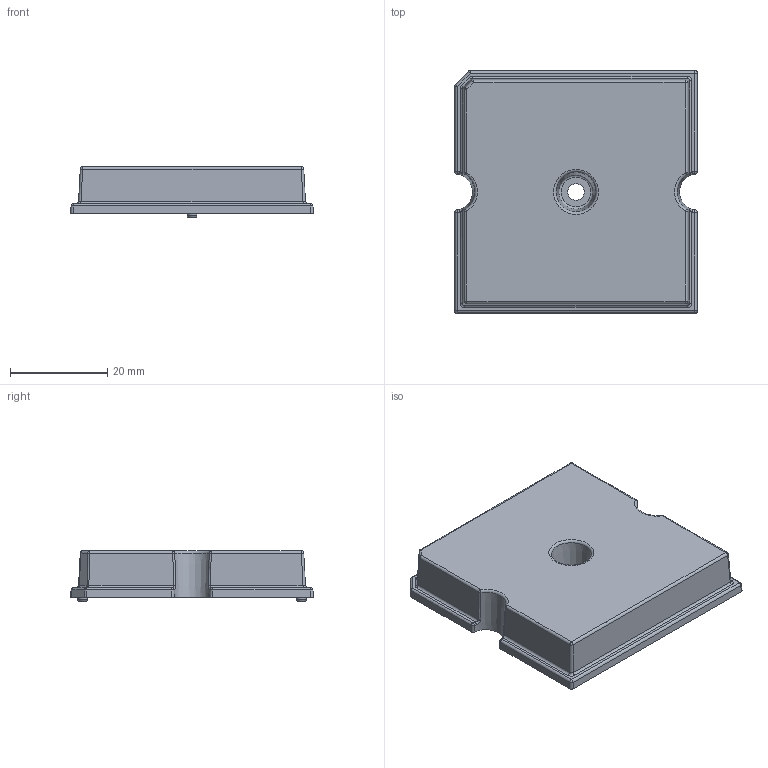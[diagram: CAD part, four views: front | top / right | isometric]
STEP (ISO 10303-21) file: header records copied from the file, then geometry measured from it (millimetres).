
FILE_DESCRIPTION(/* description */ ('Unknown'),/* implementation_level */ '2;1');
FILE_NAME(/* name */ '023YW08Y04',/* time_stamp */ '2022-11-18T07:31:28+01:00',/* author */ ('Unknown'),/* organization */ ('Unknown'),/* preprocessor_version */ 'ST-DEVELOPER v16.7',/* originating_system */ 'Solid Edge',/* authorisation */ 'Unknown');
FILE_SCHEMA (('AUTOMOTIVE_DESIGN {1 0 10303 214 3 1 1}'));
Length unit declared in the file: millimetre
Products named in the file (1): 023-W08-04
Bounding box: 50 x 50 x 10.4 mm (x, y, z)
Volume: 13677 mm3; surface area: 9016.7 mm2
Topology: 1 solids, 1 shells, 381 faces, 953 edges, 577 vertices
Faces by surface type: plane 176, cylinder 82, bspline 49, sphere 27, torus 24, cone 23
Full cylindrical faces by diameter (mm): 1.99 x2, 7.545 x4
Entity records: 11692 total; most frequent: CARTESIAN_POINT 3544, ORIENTED_EDGE 1740, DIRECTION 1515, EDGE_CURVE 870, AXIS2_PLACEMENT_3D 590, VERTEX_POINT 560, EDGE_LOOP 452, FACE_BOUND 452
